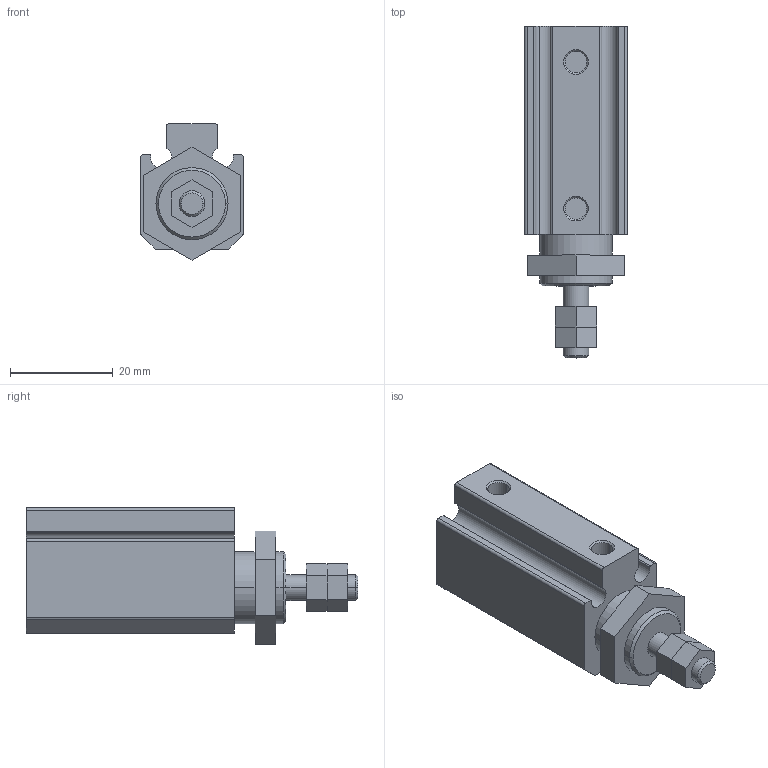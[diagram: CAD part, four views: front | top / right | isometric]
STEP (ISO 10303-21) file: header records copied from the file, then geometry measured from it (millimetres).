
FILE_DESCRIPTION((''),'2;1');
FILE_NAME('D:\CHANTO-3D-已完成\2010\第三大類\第三大類-3D\AAP-3D\AAP16X15.stp','2010-09-18T08:41:56',('Administrator'),(''),'Autodesk Inventor 8','Autodesk Inventor 8','');
FILE_SCHEMA(('AUTOMOTIVE_DESIGN { 1 0 10303 214 1 1 1 1 }'));
Length unit declared in the file: millimetre
Products named in the file (1): AAP16X15
Bounding box: 20 x 64.5 x 26.47 mm (x, y, z)
Volume: 18849.4 mm3; surface area: 6034.8 mm2
Topology: 1 solids, 1 shells, 78 faces, 190 edges, 124 vertices
Faces by surface type: plane 40, cylinder 30, cone 8
Entity records: 2321 total; most frequent: DIRECTION 416, CARTESIAN_POINT 393, ORIENTED_EDGE 380, EDGE_CURVE 190, AXIS2_PLACEMENT_3D 147, VERTEX_POINT 124, VECTOR 122, LINE 122
